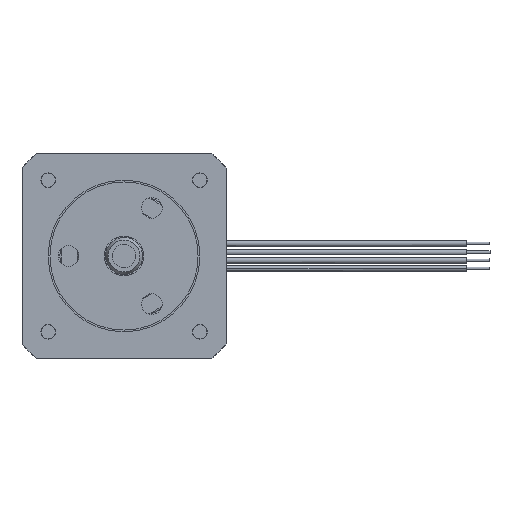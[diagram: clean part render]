
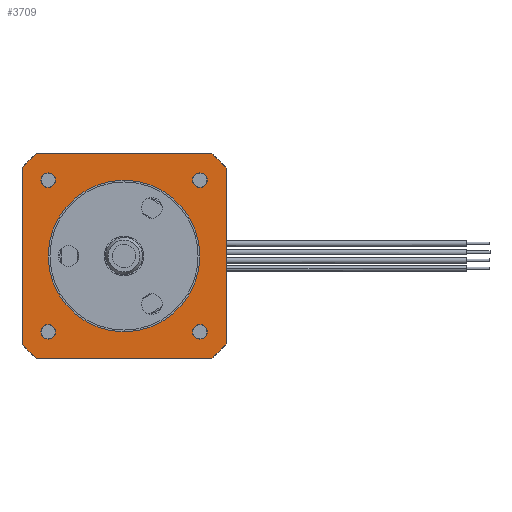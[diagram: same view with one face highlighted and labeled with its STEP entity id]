
A CAD part, left-side view. The second image highlights one B-rep face of the part: STEP entity #3709.
In plain terms, the highlighted planar face has unit normal (-1, 0, 0).
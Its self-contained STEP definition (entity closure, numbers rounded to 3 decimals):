
#2562=CARTESIAN_POINT('',(-13.457,-17.5,15.078));
#2563=VERTEX_POINT('',#2562);
#2570=CARTESIAN_POINT('',(-13.457,-17.5,-15.078));
#2571=VERTEX_POINT('',#2570);
#2572=CARTESIAN_POINT('',(-13.457,-17.5,15.078));
#2573=DIRECTION('',(0.,0.,-1.));
#2574=VECTOR('',#2573,30.157);
#2575=LINE('',#2572,#2574);
#2576=EDGE_CURVE('',#2563,#2571,#2575,.T.);
#2900=CARTESIAN_POINT('',(-13.457,15.078,17.5));
#2901=VERTEX_POINT('',#2900);
#2908=CARTESIAN_POINT('',(-13.457,-15.078,17.5));
#2909=VERTEX_POINT('',#2908);
#2910=CARTESIAN_POINT('',(-13.457,15.078,17.5));
#2911=DIRECTION('',(0.,-1.,0.));
#2912=VECTOR('',#2911,30.157);
#2913=LINE('',#2910,#2912);
#2914=EDGE_CURVE('',#2901,#2909,#2913,.T.);
#3070=CARTESIAN_POINT('',(-13.457,0.,0.));
#3071=DIRECTION('',(0.,-0.653,0.758));
#3072=DIRECTION('',(1.,0.,0.));
#3073=AXIS2_PLACEMENT_3D('',#3070,#3072,#3071);
#3074=CIRCLE('',#3073,23.1);
#3075=EDGE_CURVE('',#2909,#2563,#3074,.T.);
#3224=CARTESIAN_POINT('',(-13.457,17.5,-15.078));
#3225=VERTEX_POINT('',#3224);
#3232=CARTESIAN_POINT('',(-13.457,17.5,15.078));
#3233=VERTEX_POINT('',#3232);
#3234=CARTESIAN_POINT('',(-13.457,17.5,-15.078));
#3235=DIRECTION('',(0.,0.,1.));
#3236=VECTOR('',#3235,30.157);
#3237=LINE('',#3234,#3236);
#3238=EDGE_CURVE('',#3225,#3233,#3237,.T.);
#3471=CARTESIAN_POINT('',(-13.457,-15.078,-17.5));
#3472=VERTEX_POINT('',#3471);
#3479=CARTESIAN_POINT('',(-13.457,15.078,-17.5));
#3480=VERTEX_POINT('',#3479);
#3481=CARTESIAN_POINT('',(-13.457,-15.078,-17.5));
#3482=DIRECTION('',(0.,1.,0.));
#3483=VECTOR('',#3482,30.157);
#3484=LINE('',#3481,#3483);
#3485=EDGE_CURVE('',#3472,#3480,#3484,.T.);
#3616=CARTESIAN_POINT('',(-13.457,0.,0.));
#3617=DIRECTION('',(0.,-0.758,-0.653));
#3618=DIRECTION('',(1.,0.,0.));
#3619=AXIS2_PLACEMENT_3D('',#3616,#3618,#3617);
#3620=CIRCLE('',#3619,23.1);
#3621=EDGE_CURVE('',#2571,#3472,#3620,.T.);
#3627=CARTESIAN_POINT('',(-13.457,0.,0.));
#3628=DIRECTION('',(0.,0.,-1.));
#3629=DIRECTION('',(-1.,0.,0.));
#3630=AXIS2_PLACEMENT_3D('',#3627,#3629,#3628);
#3631=PLANE('',#3630);
#3632=ORIENTED_EDGE('',*,*,#3238,.F.);
#3633=CARTESIAN_POINT('',(-13.457,0.,0.));
#3634=DIRECTION('',(0.,0.758,-0.653));
#3635=DIRECTION('',(-1.,0.,0.));
#3636=AXIS2_PLACEMENT_3D('',#3633,#3635,#3634);
#3637=CIRCLE('',#3636,23.1);
#3638=EDGE_CURVE('',#3225,#3480,#3637,.T.);
#3639=ORIENTED_EDGE('E361',*,*,#3638,.T.);
#3640=ORIENTED_EDGE('E361',*,*,#3485,.F.);
#3641=ORIENTED_EDGE('E361',*,*,#3621,.F.);
#3642=ORIENTED_EDGE('E361',*,*,#2576,.F.);
#3643=ORIENTED_EDGE('E361',*,*,#3075,.F.);
#3644=ORIENTED_EDGE('E361',*,*,#2914,.F.);
#3645=CARTESIAN_POINT('',(-13.457,0.,0.));
#3646=DIRECTION('',(0.,0.653,0.758));
#3647=DIRECTION('',(-1.,0.,0.));
#3648=AXIS2_PLACEMENT_3D('',#3645,#3647,#3646);
#3649=CIRCLE('',#3648,23.1);
#3650=EDGE_CURVE('',#2901,#3233,#3649,.T.);
#3651=ORIENTED_EDGE('E362',*,*,#3650,.T.);
#3652=EDGE_LOOP('',(#3632,#3639,#3640,#3641,#3642,#3643,#3644,#3651));
#3653=FACE_OUTER_BOUND('',#3652,.T.);
#3654=CARTESIAN_POINT('',(-13.457,13.,-11.75));
#3655=VERTEX_POINT('',#3654);
#3656=CARTESIAN_POINT('',(-13.457,13.,-13.));
#3657=DIRECTION('',(0.,0.,1.));
#3658=DIRECTION('',(1.,0.,0.));
#3659=AXIS2_PLACEMENT_3D('',#3656,#3658,#3657);
#3660=CIRCLE('',#3659,1.25);
#3661=EDGE_CURVE('',#3655,#3655,#3660,.T.);
#3662=ORIENTED_EDGE('E363',*,*,#3661,.T.);
#3663=EDGE_LOOP('',(#3662));
#3664=FACE_BOUND('',#3663,.T.);
#3665=CARTESIAN_POINT('',(-13.457,13.,14.25));
#3666=VERTEX_POINT('',#3665);
#3667=CARTESIAN_POINT('',(-13.457,13.,13.));
#3668=DIRECTION('',(0.,0.,1.));
#3669=DIRECTION('',(1.,0.,0.));
#3670=AXIS2_PLACEMENT_3D('',#3667,#3669,#3668);
#3671=CIRCLE('',#3670,1.25);
#3672=EDGE_CURVE('',#3666,#3666,#3671,.T.);
#3673=ORIENTED_EDGE('E364',*,*,#3672,.T.);
#3674=EDGE_LOOP('',(#3673));
#3675=FACE_BOUND('',#3674,.T.);
#3676=CARTESIAN_POINT('',(-13.457,-13.,-11.75));
#3677=VERTEX_POINT('',#3676);
#3678=CARTESIAN_POINT('',(-13.457,-13.,-13.));
#3679=DIRECTION('',(0.,0.,1.));
#3680=DIRECTION('',(1.,0.,0.));
#3681=AXIS2_PLACEMENT_3D('',#3678,#3680,#3679);
#3682=CIRCLE('',#3681,1.25);
#3683=EDGE_CURVE('',#3677,#3677,#3682,.T.);
#3684=ORIENTED_EDGE('E365',*,*,#3683,.T.);
#3685=EDGE_LOOP('',(#3684));
#3686=FACE_BOUND('',#3685,.T.);
#3687=CARTESIAN_POINT('',(-13.457,-13.,14.25));
#3688=VERTEX_POINT('',#3687);
#3689=CARTESIAN_POINT('',(-13.457,-13.,13.));
#3690=DIRECTION('',(0.,0.,1.));
#3691=DIRECTION('',(1.,0.,0.));
#3692=AXIS2_PLACEMENT_3D('',#3689,#3691,#3690);
#3693=CIRCLE('',#3692,1.25);
#3694=EDGE_CURVE('',#3688,#3688,#3693,.T.);
#3695=ORIENTED_EDGE('E366',*,*,#3694,.T.);
#3696=EDGE_LOOP('',(#3695));
#3697=FACE_BOUND('',#3696,.T.);
#3698=CARTESIAN_POINT('',(-13.457,0.,-13.));
#3699=VERTEX_POINT('',#3698);
#3700=CARTESIAN_POINT('',(-13.457,0.,0.));
#3701=DIRECTION('',(0.,0.,-1.));
#3702=DIRECTION('',(1.,0.,0.));
#3703=AXIS2_PLACEMENT_3D('',#3700,#3702,#3701);
#3704=CIRCLE('',#3703,13.);
#3705=EDGE_CURVE('',#3699,#3699,#3704,.T.);
#3706=ORIENTED_EDGE('E367',*,*,#3705,.T.);
#3707=EDGE_LOOP('',(#3706));
#3708=FACE_BOUND('',#3707,.T.);
#3709=ADVANCED_FACE('F79',(#3653,#3664,#3675,#3686,#3697,#3708),#3631,.T.);
